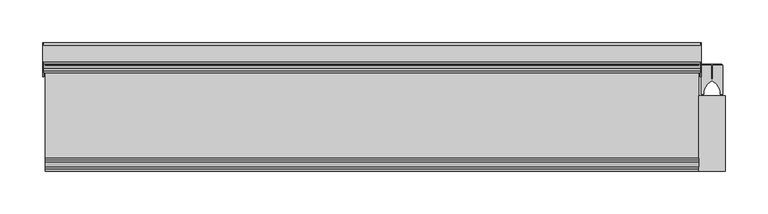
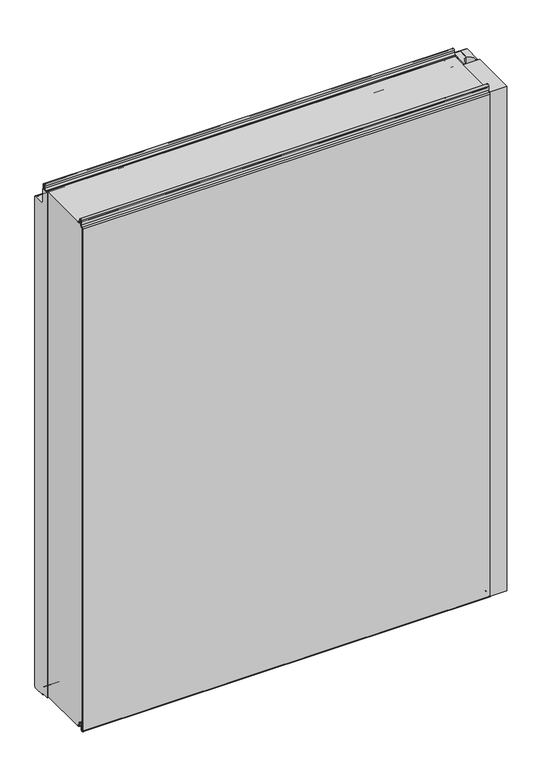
"""IFC4 building model written with IfcOpenShell, lengths in millimetres: plate geometry, Fronttop : Fronttop 150/1000."""

from ifc_helpers import new_model, si_unit, point, frame, frame_2d, origin, origin_with_axes, place, context, project, spatial, polyline, circle_curve, trimmed, segment, composite_curve, outline, extrude, source, transform, mapped, element, save
from ifc_brep_helpers import plane_surface, cylinder_surface, revolved_surface, advanced_brep


def plate_d295188d(model_context):
    return source(origin(), model_context, "Body", "SolidModel", [
        advanced_brep(
        [(-384.0, 124.0, 1008.0), (-384.0, 121.0, 1008.0), (-384.0, 121.0, 1004.0), (-384.0, 117.0, 1000.0), (-384.0, 115.0, 1000.0), (-384.0, 115.0, 1001.0), (-384.0, 117.0, 1001.0), (-384.0, 120.0, 1004.0), (-384.0, 120.0, 1008.0), (-384.0, 125.0, 1008.0), (-384.0, 125.0, 1000.0), (-384.0, 124.0, 1000.0), (384.0, 125.0, 1008.0), (384.0, 120.0, 1008.0), (384.0, 120.0, 1004.0), (384.0, 117.0, 1001.0), (384.0, 115.0, 1001.0), (384.0, 115.0, 1000.0), (384.0, 117.0, 1000.0), (384.0, 121.0, 1004.0), (384.0, 121.0, 1008.0), (384.0, 124.0, 1008.0), (384.0, 124.0, 1000.0), (384.0, 125.0, 1000.0), (-384.0, 117.0, 2.0), (384.0, 117.0, 2.0), (384.0, 115.0, 2.0), (-384.0, 115.0, 2.0), (-384.0, 119.0, 4.0), (384.0, 119.0, 4.0), (-384.0, 119.0, 8.0), (384.0, 119.0, 8.0), (-384.0, 126.0, 8.0), (384.0, 126.0, 8.0), (-384.0, 126.0, 0.0), (384.0, 126.0, 0.0), (-384.0, 129.0, -3.0), (384.0, 129.0, -3.0), (-384.0, 125.0, -3.0), (-385.0, 125.0, -3.0), (-385.0, 147.0, -3.0), (-384.0, 147.0, -3.0), (384.0, 147.0, -3.0), (385.0, 147.0, -3.0), (385.0, 125.0, -3.0), (384.0, 125.0, -3.0), (-384.0, 150.0, 0.0), (384.0, 150.0, 0.0), (-385.0, 150.0, 0.0), (-385.0, 150.0, 969.0), (-384.0, 150.0, 969.0), (384.0, 150.0, 969.0), (385.0, 150.0, 969.0), (385.0, 150.0, 0.0), (-384.0, 147.0, 972.0), (384.0, 147.0, 972.0), (-385.0, 147.0, 972.0), (-385.0, 128.0, 972.0), (-384.0, 128.0, 972.0), (384.0, 128.0, 972.0), (385.0, 128.0, 972.0), (385.0, 147.0, 972.0), (-384.0, 125.0, 975.0), (384.0, 125.0, 975.0), (-385.0, 125.0, 975.0), (-385.0, 125.0, 1000.0), (385.0, 125.0, 1000.0), (385.0, 125.0, 975.0), (-384.0, 124.0, 975.0), (384.0, 124.0, 975.0), (-384.0, 128.0, 971.0), (384.0, 128.0, 971.0), (-384.0, 147.0, 971.0), (384.0, 147.0, 971.0), (-384.0, 149.0, 969.0), (384.0, 149.0, 969.0), (-384.0, 149.0, 0.0), (384.0, 149.0, 0.0), (-384.0, 147.0, -2.0), (384.0, 147.0, -2.0), (-384.0, 129.0, -2.0), (384.0, 129.0, -2.0), (-384.0, 127.0, 0.0), (384.0, 127.0, 0.0), (-384.0, 127.0, 8.0), (384.0, 127.0, 8.0), (-384.0, 118.0, 8.0), (384.0, 118.0, 8.0), (-384.0, 118.0, 4.0), (384.0, 118.0, 4.0), (-384.0, 117.0, 3.0), (384.0, 117.0, 3.0), (-384.0, 115.0, 3.0), (384.0, 115.0, 3.0), (385.0, 110.0, 1000.0), (385.0, 110.0, 0.0), (385.0, 125.0, 0.0), (384.0, 125.0, 0.0), (384.0, 110.0, 0.0), (384.0, 110.0, 1000.0), (-385.0, 125.0, 0.0), (-385.0, 110.0, 0.0), (-385.0, 110.0, 1000.0), (-384.0, 110.0, 1000.0), (-384.0, 110.0, 0.0), (-384.0, 125.0, 0.0)],
        [
            (0, 1, circle_curve(frame((-384.0, 122.5, 1008.0), z_axis=(1.0, 0.0, 0.0), x_axis=(0.0, -1.0, 0.0)), 1.5)),
            (1, 2),
            (2, 3, circle_curve(frame((-384.0, 117.0, 1004.0), z_axis=(-1.0, 0.0, 0.0), x_axis=(0.0, -1.0, 0.0)), 4.0)),
            (3, 4),
            (4, 5),
            (5, 6),
            (6, 7, circle_curve(frame((-384.0, 117.0, 1004.0), z_axis=(1.0, 0.0, 0.0), x_axis=(0.0, -1.0, 0.0)), 3.0)),
            (7, 8),
            (8, 9, circle_curve(frame((-384.0, 122.5, 1008.0), z_axis=(-1.0, 0.0, 0.0), x_axis=(0.0, -1.0, 0.0)), 2.5)),
            (9, 10),
            (10, 11),
            (11, 0),
            (12, 13, circle_curve(frame((384.0, 122.5, 1008.0), z_axis=(1.0, 0.0, 0.0), x_axis=(0.0, -1.0, 0.0)), 2.5)),
            (13, 14),
            (14, 15, circle_curve(frame((384.0, 117.0, 1004.0), z_axis=(-1.0, 0.0, 0.0), x_axis=(0.0, -1.0, 0.0)), 3.0)),
            (15, 16),
            (16, 17),
            (17, 18),
            (18, 19, circle_curve(frame((384.0, 117.0, 1004.0), z_axis=(1.0, 0.0, 0.0), x_axis=(0.0, -1.0, 0.0)), 4.0)),
            (19, 20),
            (20, 21, circle_curve(frame((384.0, 122.5, 1008.0), z_axis=(-1.0, 0.0, 0.0), x_axis=(0.0, -1.0, 0.0)), 1.5)),
            (21, 22),
            (22, 23),
            (23, 12),
            (24, 25),
            (25, 26),
            (26, 27),
            (27, 24),
            (24, 28, circle_curve(frame((-384.0, 117.0, 4.0), z_axis=(1.0, 0.0, 0.0), x_axis=(0.0, -1.0, 0.0)), 2.0)),
            (28, 29),
            (29, 25, circle_curve(frame((384.0, 117.0, 4.0), z_axis=(-1.0, 0.0, 0.0), x_axis=(0.0, -1.0, 0.0)), 2.0)),
            (28, 30),
            (30, 31),
            (31, 29),
            (30, 32, circle_curve(frame((-384.0, 122.5, 8.0), z_axis=(-1.0, 0.0, 0.0), x_axis=(0.0, -1.0, 0.0)), 3.5)),
            (32, 33),
            (33, 31, circle_curve(frame((384.0, 122.5, 8.0), z_axis=(1.0, 0.0, 0.0), x_axis=(0.0, -1.0, 0.0)), 3.5)),
            (32, 34),
            (34, 35),
            (35, 33),
            (34, 36, circle_curve(frame((-384.0, 129.0, 0.0), z_axis=(1.0, 0.0, 0.0), x_axis=(0.0, -1.0, 0.0)), 3.0)),
            (36, 37),
            (37, 35, circle_curve(frame((384.0, 129.0, 0.0), z_axis=(-1.0, 0.0, 0.0), x_axis=(0.0, -1.0, 0.0)), 3.0)),
            (36, 38),
            (38, 39),
            (39, 40),
            (40, 41),
            (41, 42),
            (42, 43),
            (43, 44),
            (44, 45),
            (45, 37),
            (41, 46, circle_curve(frame((-384.0, 147.0, 0.0), z_axis=(1.0, 0.0, 0.0), x_axis=(0.0, -1.0, 0.0)), 3.0)),
            (46, 47),
            (47, 42, circle_curve(frame((384.0, 147.0, 0.0), z_axis=(-1.0, 0.0, 0.0), x_axis=(0.0, -1.0, 0.0)), 3.0)),
            (46, 48),
            (48, 49),
            (49, 50),
            (50, 51),
            (51, 52),
            (52, 53),
            (53, 47),
            (50, 54, circle_curve(frame((-384.0, 147.0, 969.0), z_axis=(1.0, 0.0, 0.0), x_axis=(0.0, -1.0, 0.0)), 3.0)),
            (54, 55),
            (55, 51, circle_curve(frame((384.0, 147.0, 969.0), z_axis=(-1.0, 0.0, 0.0), x_axis=(0.0, -1.0, 0.0)), 3.0)),
            (54, 56),
            (56, 57),
            (57, 58),
            (58, 59),
            (59, 60),
            (60, 61),
            (61, 55),
            (58, 62, circle_curve(frame((-384.0, 128.0, 975.0), z_axis=(-1.0, 0.0, 0.0), x_axis=(0.0, -1.0, 0.0)), 3.0)),
            (62, 63),
            (63, 59, circle_curve(frame((384.0, 128.0, 975.0), z_axis=(1.0, 0.0, 0.0), x_axis=(0.0, -1.0, 0.0)), 3.0)),
            (62, 64),
            (64, 65),
            (65, 10),
            (9, 12),
            (23, 66),
            (66, 67),
            (67, 63),
            (8, 13),
            (7, 14),
            (6, 15),
            (5, 16),
            (4, 17),
            (4, 3),
            (3, 18),
            (18, 17),
            (2, 19),
            (1, 20),
            (0, 21),
            (11, 68),
            (68, 69),
            (69, 22),
            (68, 70, circle_curve(frame((-384.0, 128.0, 975.0), z_axis=(1.0, 0.0, 0.0), x_axis=(0.0, -1.0, 0.0)), 4.0)),
            (70, 71),
            (71, 69, circle_curve(frame((384.0, 128.0, 975.0), z_axis=(-1.0, 0.0, 0.0), x_axis=(0.0, -1.0, 0.0)), 4.0)),
            (70, 72),
            (72, 73),
            (73, 71),
            (72, 74, circle_curve(frame((-384.0, 147.0, 969.0), z_axis=(-1.0, 0.0, 0.0), x_axis=(0.0, -1.0, 0.0)), 2.0)),
            (74, 75),
            (75, 73, circle_curve(frame((384.0, 147.0, 969.0), z_axis=(1.0, 0.0, 0.0), x_axis=(0.0, -1.0, 0.0)), 2.0)),
            (74, 76),
            (76, 77),
            (77, 75),
            (76, 78, circle_curve(frame((-384.0, 147.0, 0.0), z_axis=(-1.0, 0.0, 0.0), x_axis=(0.0, -1.0, 0.0)), 2.0)),
            (78, 79),
            (79, 77, circle_curve(frame((384.0, 147.0, 0.0), z_axis=(1.0, 0.0, 0.0), x_axis=(0.0, -1.0, 0.0)), 2.0)),
            (78, 80),
            (80, 81),
            (81, 79),
            (80, 82, circle_curve(frame((-384.0, 129.0, 0.0), z_axis=(-1.0, 0.0, 0.0), x_axis=(0.0, -1.0, 0.0)), 2.0)),
            (82, 83),
            (83, 81, circle_curve(frame((384.0, 129.0, 0.0), z_axis=(1.0, 0.0, 0.0), x_axis=(0.0, -1.0, 0.0)), 2.0)),
            (82, 84),
            (84, 85),
            (85, 83),
            (84, 86, circle_curve(frame((-384.0, 122.5, 8.0), z_axis=(1.0, 0.0, 0.0), x_axis=(0.0, -1.0, 0.0)), 4.5)),
            (86, 87),
            (87, 85, circle_curve(frame((384.0, 122.5, 8.0), z_axis=(-1.0, 0.0, 0.0), x_axis=(0.0, -1.0, 0.0)), 4.5)),
            (86, 88),
            (88, 89),
            (89, 87),
            (88, 90, circle_curve(frame((-384.0, 117.0, 4.0), z_axis=(-1.0, 0.0, 0.0), x_axis=(0.0, -1.0, 0.0)), 1.0)),
            (90, 91),
            (91, 89, circle_curve(frame((384.0, 117.0, 4.0), z_axis=(1.0, 0.0, 0.0), x_axis=(0.0, -1.0, 0.0)), 1.0)),
            (90, 92),
            (92, 93),
            (93, 91),
            (26, 93),
            (92, 27),
            (66, 94),
            (94, 95),
            (95, 96),
            (96, 44),
            (43, 53, circle_curve(frame((385.0, 147.0, 0.0), z_axis=(1.0, 0.0, 0.0), x_axis=(0.0, 1.0, 0.0)), 3.0)),
            (52, 61, circle_curve(frame((385.0, 147.0, 969.0), z_axis=(1.0, 0.0, 0.0), x_axis=(0.0, 1.0, 0.0)), 3.0)),
            (60, 67, circle_curve(frame((385.0, 128.0, 975.0), z_axis=(-1.0, 0.0, 0.0), x_axis=(0.0, 1.0, 0.0)), 3.0)),
            (45, 97),
            (97, 98),
            (98, 99),
            (99, 17),
            (18, 22),
            (99, 94),
            (98, 95),
            (97, 96),
            (64, 57, circle_curve(frame((-385.0, 128.0, 975.0), z_axis=(1.0, 0.0, 0.0), x_axis=(0.0, 1.0, 0.0)), 3.0)),
            (56, 49, circle_curve(frame((-385.0, 147.0, 969.0), z_axis=(-1.0, 0.0, 0.0), x_axis=(0.0, 1.0, 0.0)), 3.0)),
            (48, 40, circle_curve(frame((-385.0, 147.0, 0.0), z_axis=(-1.0, 0.0, 0.0), x_axis=(0.0, 1.0, 0.0)), 3.0)),
            (39, 100),
            (100, 101),
            (101, 102),
            (102, 65),
            (103, 104),
            (104, 105),
            (105, 38),
            (11, 3),
            (4, 103),
            (102, 103),
            (101, 104),
            (100, 105),
        ],
        [
            plane_surface(frame((-384.0, 0.0, 0.0), z_axis=(-1.0, 0.0, 0.0), x_axis=(0.0, 0.0, 1.0))),
            plane_surface(frame((384.0, 0.0, 0.0), z_axis=(1.0, 0.0, 0.0), x_axis=(0.0, 0.0, 1.0))),
            plane_surface(frame((-384.0, 117.0, 2.0), z_axis=(0.0, 0.0, -1.0), x_axis=(1.0, 0.0, 0.0))),
            cylinder_surface(frame((-384.0, 117.0, 4.0), z_axis=(-1.0, 0.0, 0.0), x_axis=(0.0, -1.0, 0.0)), 2.0),
            plane_surface(frame((-384.0, 119.0, 8.0), z_axis=(0.0, 1.0, 0.0), x_axis=(1.0, 0.0, 0.0))),
            revolved_surface(polyline([(384.0, 119.0, 8.0), (-384.0, 119.0, 8.0)]), (-384.0, 122.5, 8.0), (1.0, 0.0, 0.0)),
            plane_surface(frame((-384.0, 126.0, 0.0), z_axis=(0.0, -1.0, 0.0), x_axis=(1.0, 0.0, 0.0))),
            cylinder_surface(frame((-384.0, 129.0, 0.0), z_axis=(-1.0, 0.0, 0.0), x_axis=(0.0, -1.0, 0.0)), 3.0),
            plane_surface(frame((-384.0, 147.0, -3.0), z_axis=(0.0, 0.0, -1.0), x_axis=(1.0, 0.0, 0.0))),
            cylinder_surface(frame((-384.0, 147.0, 0.0), z_axis=(-1.0, 0.0, 0.0), x_axis=(0.0, -1.0, 0.0)), 3.0),
            plane_surface(frame((-384.0, 150.0, 969.0), z_axis=(0.0, 1.0, 0.0), x_axis=(1.0, 0.0, 0.0))),
            cylinder_surface(frame((-384.0, 147.0, 969.0), z_axis=(-1.0, 0.0, 0.0), x_axis=(0.0, -1.0, 0.0)), 3.0),
            plane_surface(frame((-384.0, 128.0, 972.0), z_axis=(0.0, 0.0, 1.0), x_axis=(1.0, 0.0, 0.0))),
            revolved_surface(polyline([(384.0, 125.0, 975.0), (-384.0, 125.0, 975.0)]), (-384.0, 128.0, 975.0), (1.0, 0.0, 0.0)),
            plane_surface(frame((-384.0, 125.0, 1008.0), z_axis=(0.0, 1.0, 0.0), x_axis=(1.0, 0.0, 0.0))),
            cylinder_surface(frame((-384.0, 122.5, 1008.0), z_axis=(-1.0, 0.0, 0.0), x_axis=(0.0, -1.0, 0.0)), 2.5),
            plane_surface(frame((-384.0, 120.0, 1004.0), z_axis=(0.0, -1.0, 0.0), x_axis=(1.0, 0.0, 0.0))),
            revolved_surface(polyline([(384.0, 114.0, 1004.0), (-384.0, 114.0, 1004.0)]), (-384.0, 117.0, 1004.0), (1.0, 0.0, 0.0)),
            plane_surface(frame((-384.0, 115.0, 1001.0), z_axis=(0.0, 0.0, 1.0), x_axis=(1.0, 0.0, 0.0))),
            plane_surface(frame((-384.0, 115.0, 1000.0), z_axis=(0.0, -1.0, 0.0), x_axis=(1.0, 0.0, 0.0))),
            plane_surface(frame((-384.0, 117.0, 1000.0), z_axis=(0.0, 0.0, -1.0), x_axis=(1.0, 0.0, 0.0))),
            cylinder_surface(frame((-384.0, 117.0, 1004.0), z_axis=(-1.0, 0.0, 0.0), x_axis=(0.0, -1.0, 0.0)), 4.0),
            plane_surface(frame((-384.0, 121.0, 1008.0), z_axis=(0.0, 1.0, 0.0), x_axis=(1.0, 0.0, 0.0))),
            revolved_surface(polyline([(384.0, 121.0, 1008.0), (-384.0, 121.0, 1008.0)]), (-384.0, 122.5, 1008.0), (1.0, 0.0, 0.0)),
            plane_surface(frame((-384.0, 124.0, 975.0), z_axis=(0.0, -1.0, 0.0), x_axis=(1.0, 0.0, 0.0))),
            cylinder_surface(frame((-384.0, 128.0, 975.0), z_axis=(-1.0, 0.0, 0.0), x_axis=(0.0, -1.0, 0.0)), 4.0),
            plane_surface(frame((-384.0, 147.0, 971.0), z_axis=(0.0, 0.0, -1.0), x_axis=(1.0, 0.0, 0.0))),
            revolved_surface(polyline([(384.0, 145.0, 969.0), (-384.0, 145.0, 969.0)]), (-384.0, 147.0, 969.0), (1.0, 0.0, 0.0)),
            plane_surface(frame((-384.0, 149.0, 0.0), z_axis=(0.0, -1.0, 0.0), x_axis=(1.0, 0.0, 0.0))),
            revolved_surface(polyline([(384.0, 145.0, 0.0), (-384.0, 145.0, 0.0)]), (-384.0, 147.0, 0.0), (1.0, 0.0, 0.0)),
            plane_surface(frame((-384.0, 129.0, -2.0), z_axis=(0.0, 0.0, 1.0), x_axis=(1.0, 0.0, 0.0))),
            revolved_surface(polyline([(384.0, 127.0, 0.0), (-384.0, 127.0, 0.0)]), (-384.0, 129.0, 0.0), (1.0, 0.0, 0.0)),
            plane_surface(frame((-384.0, 127.0, 8.0), z_axis=(0.0, 1.0, 0.0), x_axis=(1.0, 0.0, 0.0))),
            cylinder_surface(frame((-384.0, 122.5, 8.0), z_axis=(-1.0, 0.0, 0.0), x_axis=(0.0, -1.0, 0.0)), 4.5),
            plane_surface(frame((-384.0, 118.0, 4.0), z_axis=(0.0, -1.0, 0.0), x_axis=(1.0, 0.0, 0.0))),
            revolved_surface(polyline([(384.0, 116.0, 4.0), (-384.0, 116.0, 4.0)]), (-384.0, 117.0, 4.0), (1.0, 0.0, 0.0)),
            plane_surface(frame((-384.0, 115.0, 3.0), z_axis=(0.0, 0.0, 1.0), x_axis=(1.0, 0.0, 0.0))),
            plane_surface(frame((-384.0, 115.0, 2.0), z_axis=(0.0, -1.0, 0.0), x_axis=(1.0, 0.0, 0.0))),
            plane_surface(frame((385.0, 125.0, 1000.0), z_axis=(1.0, 0.0, 0.0), x_axis=(0.0, -1.0, 0.0))),
            plane_surface(frame((384.0, 125.0, 1000.0), z_axis=(-1.0, 0.0, 0.0), x_axis=(0.0, 1.0, 0.0))),
            plane_surface(frame((385.0, 125.0, 1000.0), z_axis=(0.0, 0.0, 1.0), x_axis=(-1.0, 0.0, 0.0))),
            plane_surface(frame((385.0, 110.0, 1000.0), z_axis=(0.0, -1.0, 0.0), x_axis=(-1.0, 0.0, 0.0))),
            plane_surface(frame((385.0, 110.0, 0.0), z_axis=(0.0, 0.0, -1.0), x_axis=(-1.0, 0.0, 0.0))),
            cylinder_surface(frame((384.0, 147.0, 0.0), z_axis=(1.0, 0.0, 0.0), x_axis=(0.0, 1.0, 0.0)), 3.0),
            cylinder_surface(frame((384.0, 147.0, 969.0), z_axis=(1.0, 0.0, 0.0), x_axis=(0.0, 1.0, 0.0)), 3.0),
            revolved_surface(polyline([(384.0, 131.0, 975.0), (385.0, 131.0, 975.0)]), (384.0, 128.0, 975.0), (-1.0, 0.0, 0.0)),
            plane_surface(frame((-385.0, 125.0, 1000.0), z_axis=(-1.0, 0.0, 0.0), x_axis=(0.0, 1.0, 0.0))),
            plane_surface(frame((-384.0, 125.0, 1000.0), z_axis=(1.0, 0.0, 0.0), x_axis=(0.0, -1.0, 0.0))),
            plane_surface(frame((-384.0, 125.0, 1000.0), z_axis=(0.0, 0.0, 1.0), x_axis=(-1.0, 0.0, 0.0))),
            plane_surface(frame((-384.0, 110.0, 1000.0), z_axis=(0.0, -1.0, 0.0), x_axis=(-1.0, 0.0, 0.0))),
            plane_surface(frame((-384.0, 110.0, 0.0), z_axis=(0.0, 0.0, -1.0), x_axis=(-1.0, 0.0, 0.0))),
            cylinder_surface(frame((-385.0, 147.0, 0.0), z_axis=(1.0, 0.0, 0.0), x_axis=(0.0, 1.0, 0.0)), 3.0),
            cylinder_surface(frame((-385.0, 147.0, 969.0), z_axis=(1.0, 0.0, 0.0), x_axis=(0.0, 1.0, 0.0)), 3.0),
            revolved_surface(polyline([(-385.0, 131.0, 975.0), (-384.0, 131.0, 975.0)]), (-385.0, 128.0, 975.0), (-1.0, 0.0, 0.0)),
            plane_surface(frame((385.0, 125.0, 0.0), z_axis=(0.0, -1.0, 0.0), x_axis=(-1.0, 0.0, 0.0))),
            plane_surface(frame((-384.0, 125.0, 0.0), z_axis=(0.0, -1.0, 0.0), x_axis=(-1.0, 0.0, 0.0))),
        ],
        [
            (0, [[1, 2, 3, 4, 5, 6, 7, 8, 9, 10, 11, 12]]),
            (1, [[13, 14, 15, 16, 17, 18, 19, 20, 21, 22, 23, 24]]),
            (2, [[25, 26, 27, 28]]),
            (3, [[-25, 29, 30, 31]]),
            (4, [[-30, 32, 33, 34]]),
            (5, [[-33, 35, 36, 37]]),
            (6, [[-36, 38, 39, 40]]),
            (7, [[-39, 41, 42, 43]]),
            (8, [[-42, 44, 45, 46, 47, 48, 49, 50, 51, 52]]),
            (9, [[-48, 53, 54, 55]]),
            (10, [[-54, 56, 57, 58, 59, 60, 61, 62]]),
            (11, [[-59, 63, 64, 65]]),
            (12, [[-64, 66, 67, 68, 69, 70, 71, 72]]),
            (13, [[-69, 73, 74, 75]]),
            (14, [[-74, 76, 77, 78, -10, 79, -24, 80, 81, 82]]),
            (15, [[-9, 83, -13, -79]]),
            (16, [[-8, 84, -14, -83]]),
            (17, [[-7, 85, -15, -84]]),
            (18, [[-6, 86, -16, -85]]),
            (19, [[-5, 87, -17, -86]]),
            (20, [[-87, 88, 89, 90]]),
            (21, [[-3, 91, -19, -89]]),
            (22, [[-2, 92, -20, -91]]),
            (23, [[-1, 93, -21, -92]]),
            (24, [[-93, -12, 94, 95, 96, -22]]),
            (25, [[-95, 97, 98, 99]]),
            (26, [[-98, 100, 101, 102]]),
            (27, [[-101, 103, 104, 105]]),
            (28, [[-104, 106, 107, 108]]),
            (29, [[-107, 109, 110, 111]]),
            (30, [[-110, 112, 113, 114]]),
            (31, [[-113, 115, 116, 117]]),
            (32, [[-116, 118, 119, 120]]),
            (33, [[-119, 121, 122, 123]]),
            (34, [[-122, 124, 125, 126]]),
            (35, [[-125, 127, 128, 129]]),
            (36, [[-128, 130, 131, 132]]),
            (37, [[-27, 133, -131, 134]]),
            (38, [[135, 136, 137, 138, -50, 139, -61, 140, -71, 141, -81]]),
            (39, [[142, 143, 144, 145, -90, 146, -96, -99, -102, -105, -108, -111, -114, -117, -120, -123, -126, -129, -132, -133, -26, -31, -34, -37, -40, -43, -52]]),
            (40, [[-135, -80, -23, -146, -18, -145, 147]]),
            (41, [[-136, -147, -144, 148]]),
            (42, [[-137, -148, -143, 149]]),
            (43, [[-139, -49, -55, -62]]),
            (44, [[-140, -60, -65, -72]]),
            (45, [[-141, -70, -75, -82]]),
            (46, [[-77, 150, -67, 151, -57, 152, -46, 153, 154, 155, 156]]),
            (47, [[157, 158, 159, -44, -41, -38, -35, -32, -29, -28, -134, -130, -127, -124, -121, -118, -115, -112, -109, -106, -103, -100, -97, -94, 160, -88, 161]]),
            (48, [[-156, 162, -161, -4, -160, -11, -78]]),
            (49, [[-155, 163, -157, -162]]),
            (50, [[-154, 164, -158, -163]]),
            (51, [[-152, -56, -53, -47]]),
            (52, [[-151, -66, -63, -58]]),
            (53, [[-150, -76, -73, -68]]),
            (54, [[-138, -149, -142, -51]]),
            (55, [[-153, -45, -159, -164]]),
        ],
    ),
        extrude(outline(composite_curve([segment(polyline([(384.9998455, 123.5), (396.75, 123.5), (396.75, 107.5), (398.25, 107.5), (398.25, 123.5), (410.0001545, 123.5), (410.0001545, 90.0), (407.25, 90.0), (407.25, 92.5)]), True, "CONTINUOUS"), segment(trimmed(circle_curve(frame_2d((389.4661979, 89.3183984)), 18.0661619), [point((407.25, 92.5))], [point((397.5, 105.5))], True, "CARTESIAN"), True, "CONTINUOUS"), segment(trimmed(circle_curve(frame_2d((405.5338021, 89.3183984)), 18.0661619), [point((397.5, 105.5))], [point((387.75, 92.5))], True, "CARTESIAN"), True, "CONTINUOUS"), segment(polyline([(387.75, 92.5), (387.75, 90.0), (384.9998455, 90.0), (384.9998455, 123.5)]), True, "CONTINUOUS")], self_intersect=False)), origin_with_axes(), (0.0, 0.0, 1.0), 1000.0),
        extrude(outline(polyline([(413.0, 0.0), (382.0, 0.0), (382.0, 88.0), (413.0, 88.0), (413.0, 0.0)])), origin_with_axes(), (0.0, 0.0, 1.0), 1000.0),
        extrude(outline(polyline([(385.9948846, 125.0), (409.0051154, 125.0), (409.0051154, 123.5), (398.1502496, 123.5), (398.1502496, 109.0759655), (396.85, 109.0759655), (396.85, 123.5), (385.9948846, 123.5), (385.9948846, 125.0)])), origin_with_axes(), (0.0, 0.0, 1.0), 1000.0),
        advanced_brep(
        [(-382.0, 13.0, 1001.0), (-382.0, 15.0, 1001.0), (-382.0, 15.0, 1000.0), (-382.0, 13.0, 1000.0), (-382.0, 9.0, 1004.0), (-382.0, 9.0, 1008.0), (-382.0, 6.0, 1008.0), (-382.0, 6.0, 999.5), (-382.0, 2.1134897, 996.0214069), (-382.0, 1.0, 995.0), (-382.0, 1.0, -0.5), (-382.0, 3.0, -0.5), (-382.0, 3.0, 8.0), (-382.0, 12.0, 8.0), (-382.0, 12.0, 4.0), (-382.0, 13.0, 3.0), (-382.0, 15.0, 3.0), (-382.0, 15.0, 2.0), (-382.0, 13.0, 2.0), (-382.0, 11.0, 4.0), (-382.0, 11.0, 8.0), (-382.0, 4.0, 8.0), (-382.0, 4.0, -0.5), (-382.0, 0.0, -0.5), (-382.0, 0.0, 995.0), (-382.0, 2.220863, 996.9877675), (-382.0, 5.0, 999.5), (-382.0, 5.0, 1008.0), (-382.0, 10.0, 1008.0), (-382.0, 10.0, 1004.0), (382.0, 13.0, 1001.0), (382.0, 10.0, 1004.0), (382.0, 10.0, 1008.0), (382.0, 5.0, 1008.0), (382.0, 5.0, 999.5), (382.0, 2.2239212, 997.0152907), (382.0, 0.0, 995.0), (382.0, 0.0, -0.5), (382.0, 4.0, -0.5), (382.0, 4.0, 8.0), (382.0, 11.0, 8.0), (382.0, 11.0, 4.0), (382.0, 13.0, 2.0), (382.0, 15.0, 2.0), (382.0, 15.0, 3.0), (382.0, 13.0, 3.0), (382.0, 12.0, 4.0), (382.0, 12.0, 8.0), (382.0, 3.0, 8.0), (382.0, 3.0, -0.5), (382.0, 1.0, -0.5), (382.0, 1.0, 995.0), (382.0, 2.1104315, 995.9938837), (382.0, 6.0, 999.5), (382.0, 6.0, 1008.0), (382.0, 9.0, 1008.0), (382.0, 9.0, 1004.0), (382.0, 13.0, 1000.0), (382.0, 15.0, 1000.0), (382.0, 15.0, 1001.0)],
        [
            (0, 1),
            (1, 2),
            (2, 3),
            (3, 4, circle_curve(frame((-382.0, 13.0, 1004.0), z_axis=(-1.0, 0.0, 0.0), x_axis=(0.0, -1.0, 0.0)), 4.0)),
            (4, 5),
            (5, 6, circle_curve(frame((-382.0, 7.5, 1008.0), z_axis=(1.0, 0.0, 0.0), x_axis=(0.0, -1.0, 0.0)), 1.5)),
            (6, 7),
            (7, 8, circle_curve(frame((-382.0, 2.5, 999.5), z_axis=(-1.0, 0.0, 0.0), x_axis=(0.0, -1.0, 0.0)), 3.5)),
            (8, 9, circle_curve(frame((-382.0, 2.0, 995.0), z_axis=(1.0, 0.0, 0.0), x_axis=(0.0, -1.0, 0.0)), 1.0)),
            (9, 10),
            (10, 11, circle_curve(frame((-382.0, 2.0, -0.5), z_axis=(1.0, 0.0, 0.0), x_axis=(0.0, -1.0, 0.0)), 1.0)),
            (11, 12),
            (12, 13, circle_curve(frame((-382.0, 7.5, 8.0), z_axis=(-1.0, 0.0, 0.0), x_axis=(0.0, -1.0, 0.0)), 4.5)),
            (13, 14),
            (14, 15, circle_curve(frame((-382.0, 13.0, 4.0), z_axis=(1.0, 0.0, 0.0), x_axis=(0.0, -1.0, 0.0)), 1.0)),
            (15, 16),
            (16, 17),
            (17, 18),
            (18, 19, circle_curve(frame((-382.0, 13.0, 4.0), z_axis=(-1.0, 0.0, 0.0), x_axis=(0.0, -1.0, 0.0)), 2.0)),
            (19, 20),
            (20, 21, circle_curve(frame((-382.0, 7.5, 8.0), z_axis=(1.0, 0.0, 0.0), x_axis=(0.0, -1.0, 0.0)), 3.5)),
            (21, 22),
            (22, 23, circle_curve(frame((-382.0, 2.0, -0.5), z_axis=(-1.0, 0.0, 0.0), x_axis=(0.0, -1.0, 0.0)), 2.0)),
            (23, 24),
            (24, 25, circle_curve(frame((-382.0, 2.0, 995.0), z_axis=(-1.0, 0.0, 0.0), x_axis=(0.0, -1.0, 0.0)), 2.0)),
            (25, 26, circle_curve(frame((-382.0, 2.5, 999.5), z_axis=(1.0, 0.0, 0.0), x_axis=(0.0, -1.0, 0.0)), 2.5)),
            (26, 27),
            (27, 28, circle_curve(frame((-382.0, 7.5, 1008.0), z_axis=(-1.0, 0.0, 0.0), x_axis=(0.0, -1.0, 0.0)), 2.5)),
            (28, 29),
            (29, 0, circle_curve(frame((-382.0, 13.0, 1004.0), z_axis=(1.0, 0.0, 0.0), x_axis=(0.0, -1.0, 0.0)), 3.0)),
            (30, 31, circle_curve(frame((382.0, 13.0, 1004.0), z_axis=(-1.0, 0.0, 0.0), x_axis=(0.0, -1.0, 0.0)), 3.0)),
            (31, 32),
            (32, 33, circle_curve(frame((382.0, 7.5, 1008.0), z_axis=(1.0, 0.0, 0.0), x_axis=(0.0, -1.0, 0.0)), 2.5)),
            (33, 34),
            (34, 35, circle_curve(frame((382.0, 2.5, 999.5), z_axis=(-1.0, 0.0, 0.0), x_axis=(0.0, -1.0, 0.0)), 2.5)),
            (35, 36, circle_curve(frame((382.0, 2.0, 995.0), z_axis=(1.0, 0.0, 0.0), x_axis=(0.0, -1.0, 0.0)), 2.0)),
            (36, 37),
            (37, 38, circle_curve(frame((382.0, 2.0, -0.5), z_axis=(1.0, 0.0, 0.0), x_axis=(0.0, -1.0, 0.0)), 2.0)),
            (38, 39),
            (39, 40, circle_curve(frame((382.0, 7.5, 8.0), z_axis=(-1.0, 0.0, 0.0), x_axis=(0.0, -1.0, 0.0)), 3.5)),
            (40, 41),
            (41, 42, circle_curve(frame((382.0, 13.0, 4.0), z_axis=(1.0, 0.0, 0.0), x_axis=(0.0, -1.0, 0.0)), 2.0)),
            (42, 43),
            (43, 44),
            (44, 45),
            (45, 46, circle_curve(frame((382.0, 13.0, 4.0), z_axis=(-1.0, 0.0, 0.0), x_axis=(0.0, -1.0, 0.0)), 1.0)),
            (46, 47),
            (47, 48, circle_curve(frame((382.0, 7.5, 8.0), z_axis=(1.0, 0.0, 0.0), x_axis=(0.0, -1.0, 0.0)), 4.5)),
            (48, 49),
            (49, 50, circle_curve(frame((382.0, 2.0, -0.5), z_axis=(-1.0, 0.0, 0.0), x_axis=(0.0, -1.0, 0.0)), 1.0)),
            (50, 51),
            (51, 52, circle_curve(frame((382.0, 2.0, 995.0), z_axis=(-1.0, 0.0, 0.0), x_axis=(0.0, -1.0, 0.0)), 1.0)),
            (52, 53, circle_curve(frame((382.0, 2.5, 999.5), z_axis=(1.0, 0.0, 0.0), x_axis=(0.0, -1.0, 0.0)), 3.5)),
            (53, 54),
            (54, 55, circle_curve(frame((382.0, 7.5, 1008.0), z_axis=(-1.0, 0.0, 0.0), x_axis=(0.0, -1.0, 0.0)), 1.5)),
            (55, 56),
            (56, 57, circle_curve(frame((382.0, 13.0, 1004.0), z_axis=(1.0, 0.0, 0.0), x_axis=(0.0, -1.0, 0.0)), 4.0)),
            (57, 58),
            (58, 59),
            (59, 30),
            (0, 30),
            (59, 1),
            (58, 2),
            (57, 3),
            (56, 4),
            (55, 5),
            (54, 6),
            (53, 7),
            (52, 8),
            (51, 9),
            (50, 10),
            (49, 11),
            (48, 12),
            (47, 13),
            (46, 14),
            (45, 15),
            (44, 16),
            (43, 17),
            (42, 18),
            (41, 19),
            (40, 20),
            (39, 21),
            (38, 22),
            (37, 23),
            (36, 24),
            (35, 25),
            (34, 26),
            (33, 27),
            (32, 28),
            (31, 29),
        ],
        [
            plane_surface(frame((-382.0, 0.0, 0.0), z_axis=(-1.0, 0.0, 0.0), x_axis=(0.0, 0.0, 1.0))),
            plane_surface(frame((382.0, 0.0, 0.0), z_axis=(1.0, 0.0, 0.0), x_axis=(0.0, 0.0, 1.0))),
            plane_surface(frame((-382.0, 13.0, 1001.0), z_axis=(0.0, 0.0, 1.0), x_axis=(1.0, 0.0, 0.0))),
            plane_surface(frame((-382.0, 15.0, 1001.0), z_axis=(0.0, 1.0, 0.0), x_axis=(1.0, 0.0, 0.0))),
            plane_surface(frame((-382.0, 15.0, 1000.0), z_axis=(0.0, 0.0, -1.0), x_axis=(1.0, 0.0, 0.0))),
            cylinder_surface(frame((-382.0, 13.0, 1004.0), z_axis=(-1.0, 0.0, 0.0), x_axis=(0.0, -1.0, 0.0)), 4.0),
            plane_surface(frame((-382.0, 9.0, 1004.0), z_axis=(0.0, -1.0, 0.0), x_axis=(1.0, 0.0, 0.0))),
            revolved_surface(polyline([(382.0, 6.0, 1008.0), (-382.0, 6.0, 1008.0)]), (-382.0, 7.5, 1008.0), (1.0, 0.0, 0.0)),
            plane_surface(frame((-382.0, 6.0, 1008.0), z_axis=(0.0, 1.0, 0.0), x_axis=(1.0, 0.0, 0.0))),
            cylinder_surface(frame((-382.0, 2.5, 999.5), z_axis=(-1.0, 0.0, 0.0), x_axis=(0.0, -1.0, 0.0)), 3.5),
            revolved_surface(polyline([(382.0, 1.0, 995.0), (-382.0, 1.0, 995.0)]), (-382.0, 2.0, 995.0), (1.0, 0.0, 0.0)),
            plane_surface(frame((-382.0, 1.0, 995.0), z_axis=(0.0, 1.0, 0.0), x_axis=(1.0, 0.0, 0.0))),
            revolved_surface(polyline([(382.0, 1.0, -0.5), (-382.0, 1.0, -0.5)]), (-382.0, 2.0, -0.5), (1.0, 0.0, 0.0)),
            plane_surface(frame((-382.0, 3.0, -0.5), z_axis=(0.0, -1.0, 0.0), x_axis=(1.0, 0.0, 0.0))),
            cylinder_surface(frame((-382.0, 7.5, 8.0), z_axis=(-1.0, 0.0, 0.0), x_axis=(0.0, -1.0, 0.0)), 4.5),
            plane_surface(frame((-382.0, 12.0, 8.0), z_axis=(0.0, 1.0, 0.0), x_axis=(1.0, 0.0, 0.0))),
            revolved_surface(polyline([(382.0, 12.0, 4.0), (-382.0, 12.0, 4.0)]), (-382.0, 13.0, 4.0), (1.0, 0.0, 0.0)),
            plane_surface(frame((-382.0, 13.0, 3.0), z_axis=(0.0, 0.0, 1.0), x_axis=(1.0, 0.0, 0.0))),
            plane_surface(frame((-382.0, 15.0, 3.0), z_axis=(0.0, 1.0, 0.0), x_axis=(1.0, 0.0, 0.0))),
            plane_surface(frame((-382.0, 15.0, 2.0), z_axis=(0.0, 0.0, -1.0), x_axis=(1.0, 0.0, 0.0))),
            cylinder_surface(frame((-382.0, 13.0, 4.0), z_axis=(-1.0, 0.0, 0.0), x_axis=(0.0, -1.0, 0.0)), 2.0),
            plane_surface(frame((-382.0, 11.0, 4.0), z_axis=(0.0, -1.0, 0.0), x_axis=(1.0, 0.0, 0.0))),
            revolved_surface(polyline([(382.0, 4.0, 8.0), (-382.0, 4.0, 8.0)]), (-382.0, 7.5, 8.0), (1.0, 0.0, 0.0)),
            plane_surface(frame((-382.0, 4.0, 8.0), z_axis=(0.0, 1.0, 0.0), x_axis=(1.0, 0.0, 0.0))),
            cylinder_surface(frame((-382.0, 2.0, -0.5), z_axis=(-1.0, 0.0, 0.0), x_axis=(0.0, -1.0, 0.0)), 2.0),
            plane_surface(frame((-382.0, 0.0, -0.5), z_axis=(0.0, -1.0, 0.0), x_axis=(1.0, 0.0, 0.0))),
            cylinder_surface(frame((-382.0, 2.0, 995.0), z_axis=(-1.0, 0.0, 0.0), x_axis=(0.0, -1.0, 0.0)), 2.0),
            revolved_surface(polyline([(382.0, 0.0, 999.5), (-382.0, 0.0, 999.5)]), (-382.0, 2.5, 999.5), (1.0, 0.0, 0.0)),
            plane_surface(frame((-382.0, 5.0, 999.5), z_axis=(0.0, -1.0, 0.0), x_axis=(1.0, 0.0, 0.0))),
            cylinder_surface(frame((-382.0, 7.5, 1008.0), z_axis=(-1.0, 0.0, 0.0), x_axis=(0.0, -1.0, 0.0)), 2.5),
            plane_surface(frame((-382.0, 10.0, 1008.0), z_axis=(0.0, 1.0, 0.0), x_axis=(1.0, 0.0, 0.0))),
            revolved_surface(polyline([(382.0, 10.0, 1004.0), (-382.0, 10.0, 1004.0)]), (-382.0, 13.0, 1004.0), (1.0, 0.0, 0.0)),
        ],
        [
            (0, [[1, 2, 3, 4, 5, 6, 7, 8, 9, 10, 11, 12, 13, 14, 15, 16, 17, 18, 19, 20, 21, 22, 23, 24, 25, 26, 27, 28, 29, 30]]),
            (1, [[31, 32, 33, 34, 35, 36, 37, 38, 39, 40, 41, 42, 43, 44, 45, 46, 47, 48, 49, 50, 51, 52, 53, 54, 55, 56, 57, 58, 59, 60]]),
            (2, [[-1, 61, -60, 62]]),
            (3, [[-2, -62, -59, 63]]),
            (4, [[-3, -63, -58, 64]]),
            (5, [[-4, -64, -57, 65]]),
            (6, [[-5, -65, -56, 66]]),
            (7, [[-6, -66, -55, 67]]),
            (8, [[-7, -67, -54, 68]]),
            (9, [[-8, -68, -53, 69]]),
            (10, [[-9, -69, -52, 70]]),
            (11, [[-10, -70, -51, 71]]),
            (12, [[-11, -71, -50, 72]]),
            (13, [[-12, -72, -49, 73]]),
            (14, [[-13, -73, -48, 74]]),
            (15, [[-14, -74, -47, 75]]),
            (16, [[-15, -75, -46, 76]]),
            (17, [[-16, -76, -45, 77]]),
            (18, [[-17, -77, -44, 78]]),
            (19, [[-18, -78, -43, 79]]),
            (20, [[-19, -79, -42, 80]]),
            (21, [[-20, -80, -41, 81]]),
            (22, [[-21, -81, -40, 82]]),
            (23, [[-22, -82, -39, 83]]),
            (24, [[-23, -83, -38, 84]]),
            (25, [[-24, -84, -37, 85]]),
            (26, [[-25, -85, -36, 86]]),
            (27, [[-26, -86, -35, 87]]),
            (28, [[-27, -87, -34, 88]]),
            (29, [[-28, -88, -33, 89]]),
            (30, [[-29, -89, -32, 90]]),
            (31, [[-30, -90, -31, -61]]),
        ],
    ),
        extrude(outline(composite_curve([segment(polyline([(15.0, 3.0), (13.0, 3.0)]), True, "CONTINUOUS"), segment(trimmed(circle_curve(frame_2d((13.0, 4.0)), 1.0), [point((13.0, 3.0))], [point((12.0, 4.0))], False, "CARTESIAN"), True, "CONTINUOUS"), segment(polyline([(12.0, 4.0), (12.0, 8.0)]), True, "CONTINUOUS"), segment(trimmed(circle_curve(frame_2d((7.5, 8.0)), 4.5), [point((12.0, 8.0))], [point((3.0, 8.0))], True, "CARTESIAN"), True, "CONTINUOUS"), segment(polyline([(3.0, 8.0), (3.0, -0.5)]), True, "CONTINUOUS"), segment(trimmed(circle_curve(frame_2d((2.0, -0.5)), 1.0), [point((3.0, -0.5))], [point((1.0, -0.5))], False, "CARTESIAN"), True, "CONTINUOUS"), segment(polyline([(1.0, -0.5), (1.0, 995.0278643)]), True, "CONTINUOUS"), segment(trimmed(circle_curve(frame_2d((2.0, 995.0278643)), 1.0), [point((1.0, 995.0278643))], [point((2.1111111, 996.0216723))], False, "CARTESIAN"), True, "CONTINUOUS"), segment(trimmed(circle_curve(frame_2d((2.5, 999.5)), 3.5), [point((2.1111111, 996.0216723))], [point((6.0, 999.5))], True, "CARTESIAN"), True, "CONTINUOUS"), segment(polyline([(6.0, 999.5), (6.0, 1008.0)]), True, "CONTINUOUS"), segment(trimmed(circle_curve(frame_2d((7.5, 1008.0)), 1.5), [point((6.0, 1008.0))], [point((9.0, 1008.0))], False, "CARTESIAN"), True, "CONTINUOUS"), segment(polyline([(9.0, 1008.0), (9.0, 1004.0)]), True, "CONTINUOUS"), segment(trimmed(circle_curve(frame_2d((13.0, 1004.0)), 4.0), [point((9.0, 1004.0))], [point((13.0, 1000.0))], True, "CARTESIAN"), True, "CONTINUOUS"), segment(polyline([(13.0, 1000.0), (117.0, 1000.0)]), True, "CONTINUOUS"), segment(trimmed(circle_curve(frame_2d((117.0, 1004.0)), 4.0), [point((117.0, 1000.0))], [point((121.0, 1004.0))], True, "CARTESIAN"), True, "CONTINUOUS"), segment(polyline([(121.0, 1004.0), (121.0, 1008.0)]), True, "CONTINUOUS"), segment(trimmed(circle_curve(frame_2d((122.5, 1008.0)), 1.5), [point((121.0, 1008.0))], [point((124.0, 1008.0))], False, "CARTESIAN"), True, "CONTINUOUS"), segment(polyline([(124.0, 1008.0), (124.0, 975.0)]), True, "CONTINUOUS"), segment(trimmed(circle_curve(frame_2d((128.0, 975.0)), 4.0), [point((124.0, 975.0))], [point((128.0, 971.0))], True, "CARTESIAN"), True, "CONTINUOUS"), segment(polyline([(128.0, 971.0), (147.0, 971.0)]), True, "CONTINUOUS"), segment(trimmed(circle_curve(frame_2d((147.0, 969.0)), 2.0), [point((147.0, 971.0))], [point((149.0, 969.0))], False, "CARTESIAN"), True, "CONTINUOUS"), segment(polyline([(149.0, 969.0), (149.0, 0.0)]), True, "CONTINUOUS"), segment(trimmed(circle_curve(frame_2d((147.0, 0.0)), 2.0), [point((149.0, 0.0))], [point((147.0, -2.0))], False, "CARTESIAN"), True, "CONTINUOUS"), segment(polyline([(147.0, -2.0), (129.0, -2.0)]), True, "CONTINUOUS"), segment(trimmed(circle_curve(frame_2d((129.0, 0.0)), 2.0), [point((129.0, -2.0))], [point((127.0, 0.0))], False, "CARTESIAN"), True, "CONTINUOUS"), segment(polyline([(127.0, 0.0), (127.0, 8.0)]), True, "CONTINUOUS"), segment(trimmed(circle_curve(frame_2d((122.5, 8.0)), 4.5), [point((127.0, 8.0))], [point((118.0, 8.0))], True, "CARTESIAN"), True, "CONTINUOUS"), segment(polyline([(118.0, 8.0), (118.0, 4.0)]), True, "CONTINUOUS"), segment(trimmed(circle_curve(frame_2d((117.0, 4.0)), 1.0), [point((118.0, 4.0))], [point((117.0, 3.0))], False, "CARTESIAN"), True, "CONTINUOUS"), segment(polyline([(117.0, 3.0), (115.0, 3.0), (115.0, 0.0), (15.0, 0.0), (15.0, 3.0)]), True, "CONTINUOUS")], self_intersect=False)), frame((-382.0, 0.0, 0.0), z_axis=(1.0, 0.0, 0.0), x_axis=(0.0, 1.0, 0.0)), (0.0, 0.0, 1.0), 764.0),
    ])


if __name__ == "__main__":
    model = new_model("IFC4")
    model_context = context("Model", 3, world=origin())
    ifc_project = project(units=[si_unit("LENGTHUNIT", "METRE", prefix="MILLI")], contexts=[model_context])
    site = spatial("IfcSite", under=ifc_project)
    building = spatial("IfcBuilding", under=site)
    placement = place(None, origin())
    plate_shape = plate_d295188d(model_context)
    element("IfcPlate", 1, ObjectType="Fronttop : Fronttop 150/1000", at=placement, inside=building, context=model_context, shape_type="MappedRepresentation", body=[
        mapped(plate_shape, transform((0.0, 0.0, 0.0), x_axis=(1.0, 0.0, 0.0), y_axis=(0.0, 1.0, 0.0), z_axis=(0.0, 0.0, 1.0))),
    ])
    save(model, "model.ifc")
